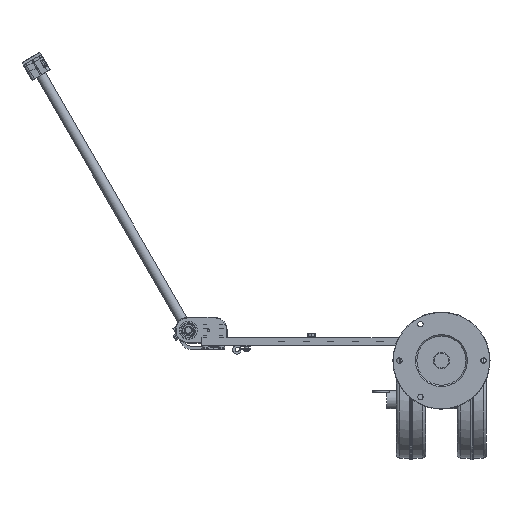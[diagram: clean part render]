
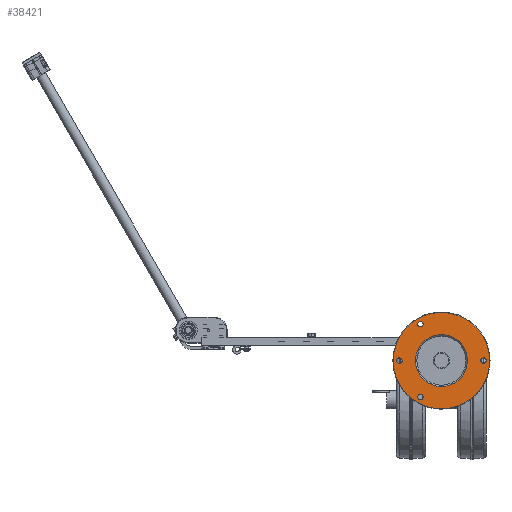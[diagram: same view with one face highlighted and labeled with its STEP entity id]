
A CAD part, front view. The second image highlights one B-rep face of the part: STEP entity #38421.
In plain terms, the highlighted planar face has unit normal (0, -1, 0).
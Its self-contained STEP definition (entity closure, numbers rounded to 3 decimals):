
#10923=CARTESIAN_POINT('',(0.,0.,
0.));
#10924=DIRECTION('',(0.,1.,0.));
#10925=DIRECTION('',(0.,0.,-1.));
#10926=AXIS2_PLACEMENT_3D('',#10923,#10924,#10925);
#10928=CARTESIAN_POINT('',(0.,0.,
0.));
#10929=DIRECTION('',(0.,1.,0.));
#10930=DIRECTION('',(-1.,0.,0.));
#10931=AXIS2_PLACEMENT_3D('',#10928,#10929,#10930);
#10933=CARTESIAN_POINT('',(0.,0.,
0.));
#10934=DIRECTION('',(0.,1.,0.));
#10935=DIRECTION('',(0.,0.,1.));
#10936=AXIS2_PLACEMENT_3D('',#10933,#10934,#10935);
#10938=CARTESIAN_POINT('',(-32.5,0.,56.292));
#10939=DIRECTION('',(0.,-1.,0.));
#10940=DIRECTION('',(-1.,0.,0.));
#10941=AXIS2_PLACEMENT_3D('',#10938,#10939,#10940);
#10943=CARTESIAN_POINT('',(-32.5,0.,56.292));
#10944=DIRECTION('',(0.,-1.,0.));
#10945=DIRECTION('',(1.,0.,0.));
#10946=AXIS2_PLACEMENT_3D('',#10943,#10944,#10945);
#10948=CARTESIAN_POINT('',(65.,0.,0.));
#10949=DIRECTION('',(0.,-1.,0.));
#10950=DIRECTION('',(-1.,0.,0.));
#10951=AXIS2_PLACEMENT_3D('',#10948,#10949,#10950);
#10953=CARTESIAN_POINT('',(65.,0.,0.));
#10954=DIRECTION('',(0.,-1.,0.));
#10955=DIRECTION('',(1.,0.,0.));
#10956=AXIS2_PLACEMENT_3D('',#10953,#10954,#10955);
#10958=CARTESIAN_POINT('',(-65.,0.,0.));
#10959=DIRECTION('',(0.,-1.,0.));
#10960=DIRECTION('',(-1.,0.,0.));
#10961=AXIS2_PLACEMENT_3D('',#10958,#10959,#10960);
#10963=CARTESIAN_POINT('',(-65.,0.,0.));
#10964=DIRECTION('',(0.,-1.,0.));
#10965=DIRECTION('',(1.,0.,0.));
#10966=AXIS2_PLACEMENT_3D('',#10963,#10964,#10965);
#10968=CARTESIAN_POINT('',(0.,0.,0.));
#10969=DIRECTION('',(0.,-1.,0.));
#10970=DIRECTION('',(-1.,0.,0.));
#10971=AXIS2_PLACEMENT_3D('',#10968,#10969,#10970);
#10973=CARTESIAN_POINT('',(0.,0.,0.));
#10974=DIRECTION('',(0.,-1.,0.));
#10975=DIRECTION('',(1.,0.,0.));
#10976=AXIS2_PLACEMENT_3D('',#10973,#10974,#10975);
#10978=CARTESIAN_POINT('',(-32.5,0.,-56.292));
#10979=DIRECTION('',(0.,-1.,0.));
#10980=DIRECTION('',(-1.,0.,0.));
#10981=AXIS2_PLACEMENT_3D('',#10978,#10979,#10980);
#10983=CARTESIAN_POINT('',(-32.5,0.,-56.292));
#10984=DIRECTION('',(0.,-1.,0.));
#10985=DIRECTION('',(1.,0.,0.));
#10986=AXIS2_PLACEMENT_3D('',#10983,#10984,#10985);
#14466=CARTESIAN_POINT('',(-36.75,0.,-56.292));
#14467=CARTESIAN_POINT('',(-28.25,0.,-56.292));
#14468=VERTEX_POINT('',#14466);
#14469=VERTEX_POINT('',#14467);
#14470=CARTESIAN_POINT('',(-36.75,0.,56.292));
#14471=CARTESIAN_POINT('',(-28.25,0.,56.292));
#14472=VERTEX_POINT('',#14470);
#14473=VERTEX_POINT('',#14471);
#14474=CARTESIAN_POINT('',(60.75,0.,0.));
#14475=CARTESIAN_POINT('',(69.25,0.,0.));
#14476=VERTEX_POINT('',#14474);
#14477=VERTEX_POINT('',#14475);
#14478=CARTESIAN_POINT('',(-69.25,0.,0.));
#14479=CARTESIAN_POINT('',(-60.75,0.,0.));
#14480=VERTEX_POINT('',#14478);
#14481=VERTEX_POINT('',#14479);
#14482=CARTESIAN_POINT('',(-40.,0.,0.));
#14483=CARTESIAN_POINT('',(40.,0.,0.));
#14484=VERTEX_POINT('',#14482);
#14485=VERTEX_POINT('',#14483);
#14486=CARTESIAN_POINT('',(0.,0.,
-74.5));
#14487=CARTESIAN_POINT('',(-74.5,0.,
0.));
#14488=VERTEX_POINT('',#14486);
#14489=VERTEX_POINT('',#14487);
#14490=CARTESIAN_POINT('',(0.,0.,
74.5));
#14491=VERTEX_POINT('',#14490);
#38381=CARTESIAN_POINT('',(0.,0.,0.));
#38382=DIRECTION('',(0.,1.,0.));
#38383=DIRECTION('',(0.,0.,1.));
#38384=AXIS2_PLACEMENT_3D('',#38381,#38382,#38383);
#38385=PLANE('',#38384);
#38386=ORIENTED_EDGE('',*,*,#38347,.T.);
#38387=ORIENTED_EDGE('',*,*,#38345,.T.);
#38388=ORIENTED_EDGE('',*,*,#38368,.T.);
#38389=EDGE_LOOP('',(#38386,#38387,#38388));
#38390=FACE_OUTER_BOUND('',#38389,.F.);
#38392=ORIENTED_EDGE('',*,*,#38391,.T.);
#38394=ORIENTED_EDGE('',*,*,#38393,.T.);
#38395=EDGE_LOOP('',(#38392,#38394));
#38396=FACE_BOUND('',#38395,.F.);
#38398=ORIENTED_EDGE('',*,*,#38397,.T.);
#38400=ORIENTED_EDGE('',*,*,#38399,.T.);
#38401=EDGE_LOOP('',(#38398,#38400));
#38402=FACE_BOUND('',#38401,.F.);
#38404=ORIENTED_EDGE('',*,*,#38403,.T.);
#38406=ORIENTED_EDGE('',*,*,#38405,.T.);
#38407=EDGE_LOOP('',(#38404,#38406));
#38408=FACE_BOUND('',#38407,.F.);
#38410=ORIENTED_EDGE('',*,*,#38409,.T.);
#38412=ORIENTED_EDGE('',*,*,#38411,.T.);
#38413=EDGE_LOOP('',(#38410,#38412));
#38414=FACE_BOUND('',#38413,.F.);
#38416=ORIENTED_EDGE('',*,*,#38415,.T.);
#38418=ORIENTED_EDGE('',*,*,#38417,.T.);
#38419=EDGE_LOOP('',(#38416,#38418));
#38420=FACE_BOUND('',#38419,.F.);
#10927=CIRCLE('',#10926,74.5);
#10932=CIRCLE('',#10931,74.5);
#10937=CIRCLE('',#10936,74.5);
#10942=CIRCLE('',#10941,4.25);
#10947=CIRCLE('',#10946,4.25);
#10952=CIRCLE('',#10951,4.25);
#10957=CIRCLE('',#10956,4.25);
#10962=CIRCLE('',#10961,4.25);
#10967=CIRCLE('',#10966,4.25);
#10972=CIRCLE('',#10971,40.);
#10977=CIRCLE('',#10976,40.);
#10982=CIRCLE('',#10981,4.25);
#10987=CIRCLE('',#10986,4.25);
#38345=EDGE_CURVE('',#14489,#14491,#10932,.T.);
#38347=EDGE_CURVE('',#14488,#14489,#10927,.T.);
#38368=EDGE_CURVE('',#14491,#14488,#10937,.T.);
#38391=EDGE_CURVE('',#14472,#14473,#10942,.T.);
#38393=EDGE_CURVE('',#14473,#14472,#10947,.T.);
#38397=EDGE_CURVE('',#14476,#14477,#10952,.T.);
#38399=EDGE_CURVE('',#14477,#14476,#10957,.T.);
#38403=EDGE_CURVE('',#14480,#14481,#10962,.T.);
#38405=EDGE_CURVE('',#14481,#14480,#10967,.T.);
#38409=EDGE_CURVE('',#14484,#14485,#10972,.T.);
#38411=EDGE_CURVE('',#14485,#14484,#10977,.T.);
#38415=EDGE_CURVE('',#14468,#14469,#10982,.T.);
#38417=EDGE_CURVE('',#14469,#14468,#10987,.T.);
#38421=ADVANCED_FACE('',(#38390,#38396,#38402,#38408,#38414,#38420),#38385,.F.);
